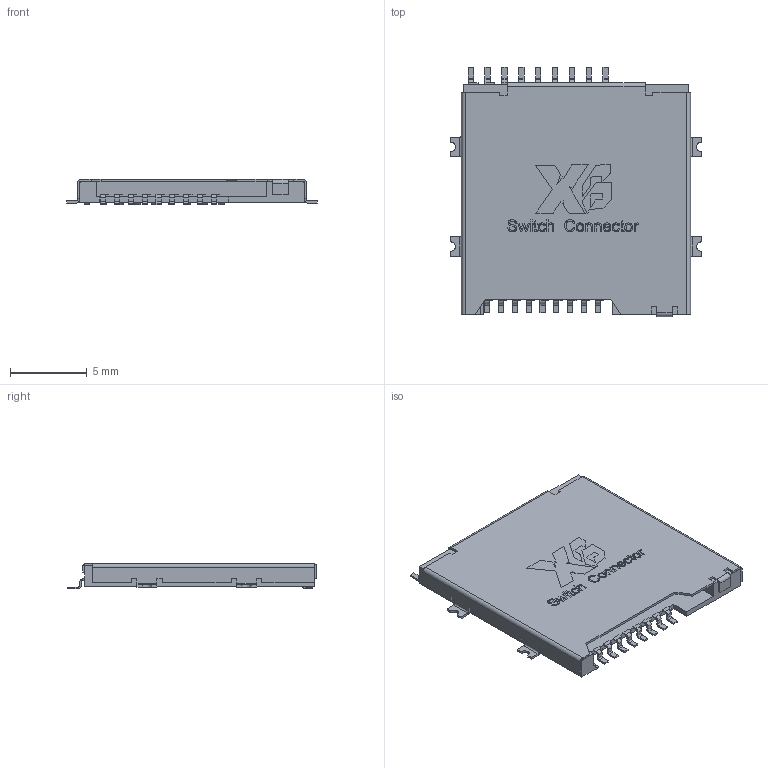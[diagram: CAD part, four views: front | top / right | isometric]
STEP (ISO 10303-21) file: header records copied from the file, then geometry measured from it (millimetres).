
FILE_DESCRIPTION(/* description */ (''),/* implementation_level */ '2;1');
FILE_NAME(/* name */ 'XBD1A7~1',/* time_stamp */ '2023-11-06T08:30:38+08:00',/* author */ (''),/* organization */ (''),/* preprocessor_version */ 'ST-DEVELOPER v16.5',/* originating_system */ '',/* authorisation */ '');
FILE_SCHEMA (('AUTOMOTIVE_DESIGN'));
Length unit declared in the file: millimetre
Products named in the file (1): Document
Bounding box: 16.34 x 16.28 x 1.65 mm (x, y, z)
Volume: 188.9 mm3; surface area: 1142 mm2
Topology: 58 solids, 58 shells, 1182 faces, 3024 edges, 2004 vertices
Faces by surface type: bspline 684, plane 498
Entity records: 40625 total; most frequent: CARTESIAN_POINT 20424, ORIENTED_EDGE 6048, EDGE_CURVE 3024, B_SPLINE_CURVE_WITH_KNOTS 2740, VERTEX_POINT 2004, EDGE_LOOP 1244, ADVANCED_FACE 1182, FACE_OUTER_BOUND 1182
